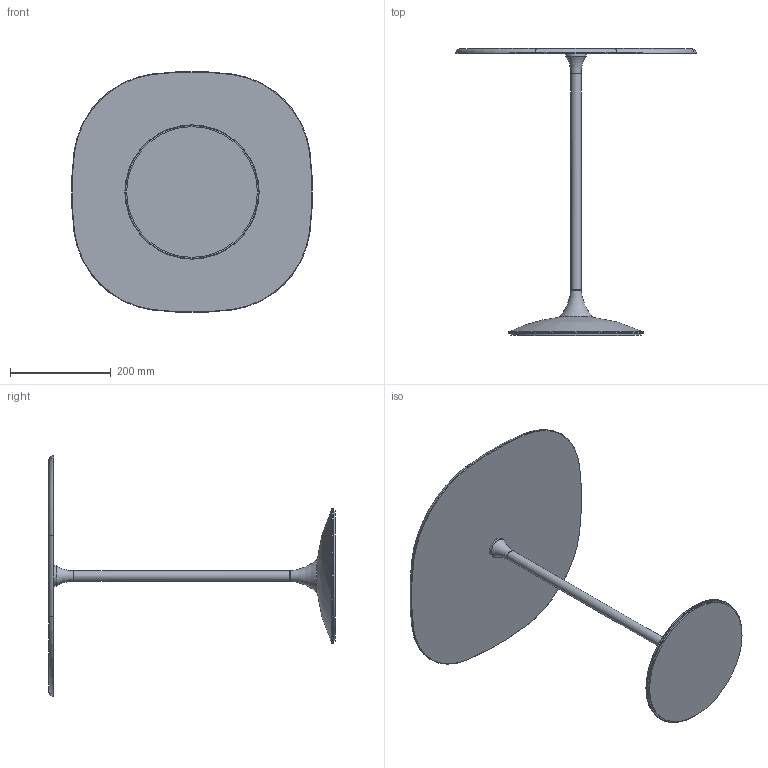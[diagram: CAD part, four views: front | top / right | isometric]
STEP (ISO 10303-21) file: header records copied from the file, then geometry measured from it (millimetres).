
FILE_DESCRIPTION((''),'2;1');
FILE_NAME('C:\AutodeskVault\AreaLavoro\Progetti\SoVeT Italia\2. Tavolini_Coffee tables\Tulip\Web file\Tulip Web\P4610.stp','2012-06-14T17:27:21',('Gianluca'),('So.Ve.T. s.r.l.'),'Autodesk Inventor 2013','Autodesk Inventor 2013','IL PROGETTO E'' DI ESCLUSIVA PROPRIETA'' DELLA SO.VE.T. srl. E'' VIETATA OGNI RIPRODUZIONE TOTALE O PARZIALE E QUALSIASI UTILIZZO NON AUTORIZZATO. ');
FILE_SCHEMA(('AUTOMOTIVE_DESIGN { 1 0 10303 214 1 1 1 1 }'));
Length unit declared in the file: millimetre
Products named in the file (1): P4610 LCTR Contorno semplificato
Bounding box: 478.8 x 570.45 x 478.8 mm (x, y, z)
Volume: 3425895.2 mm3; surface area: 556082 mm2
Topology: 1 solids, 1 shells, 40 faces, 85 edges, 50 vertices
Faces by surface type: torus 14, cone 14, plane 6, cylinder 5, bspline 1
Full cylindrical faces by diameter (mm): 20 x1, 40 x1, 60 x1, 260 x1, 267 x1
Entity records: 1066 total; most frequent: DIRECTION 196, CARTESIAN_POINT 174, ORIENTED_EDGE 124, AXIS2_PLACEMENT_3D 94, EDGE_CURVE 62, EDGE_LOOP 62, CIRCLE 54, VERTEX_POINT 45
